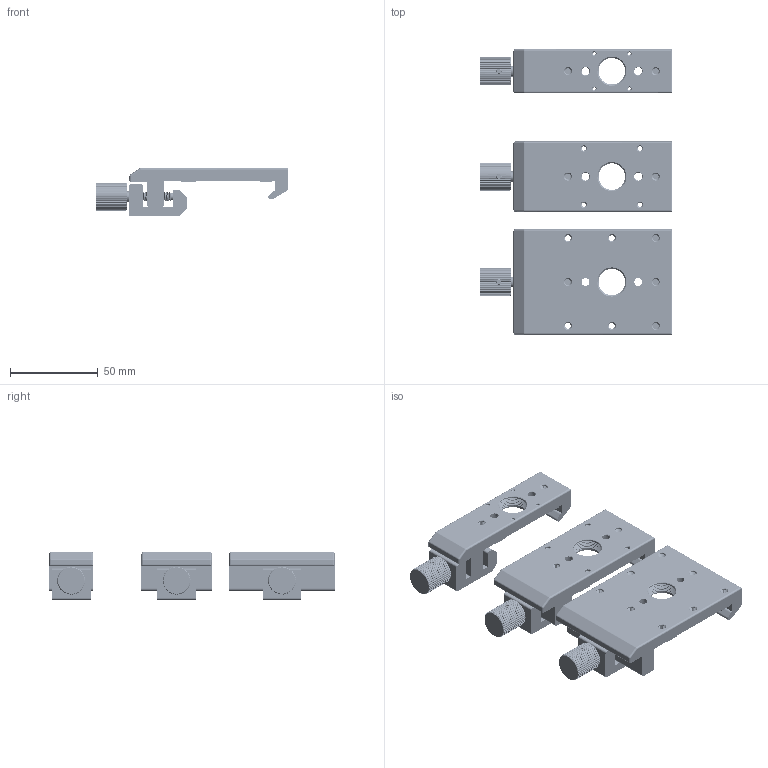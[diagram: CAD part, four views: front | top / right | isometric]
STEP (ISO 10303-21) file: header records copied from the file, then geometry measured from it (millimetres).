
FILE_DESCRIPTION((''),'2;1');
FILE_NAME('OOP_OOM-G_ASM_ASM_ASM','2021-04-09T',('Administrator'),(''),'CREO PARAMETRIC BY PTC INC, 2017300','CREO PARAMETRIC BY PTC INC, 2017300','');
FILE_SCHEMA(('CONFIG_CONTROL_DESIGN'));
Products named in the file (9): OOP-40_3; OOP-PJ22_3; OOP-SCREW_3; OOP-SCREW_CAP_3; OOP-60_3; OOP-25_3; M3X5_HS_2; OOP_OOM-G_ASM_ASM_2_ASM; OOP_OOM-G_ASM_ASM_ASM
Assembly tree (22 placements, depth 3):
  OOP_OOM-G_ASM_ASM_ASM
    OOP_OOM-G_ASM_ASM_2_ASM
      OOP-40_3
      OOP-PJ22_3  x3
      OOP-SCREW_3  x3
      OOP-SCREW_CAP_3  x3
      OOP-60_3
      OOP-25_3
      M3X5_HS_2  x9
Bounding box: 109.8 x 162.5 x 27.2 mm (x, y, z)
Volume: 136011.6 mm3; surface area: 58083.5 mm2
Topology: 21 solids, 21 shells, 2009 faces, 5692 edges, 3728 vertices
Faces by surface type: cylinder 1211, bspline 372, plane 235, cone 179, sphere 12
Entity records: 91521 total; most frequent: CARTESIAN_POINT 60365, ORIENTED_EDGE 7560, DIRECTION 4777, EDGE_CURVE 3780, VERTEX_POINT 2462, B_SPLINE_CURVE_WITH_KNOTS 1789, AXIS2_PLACEMENT_3D 1683, VECTOR 1411
